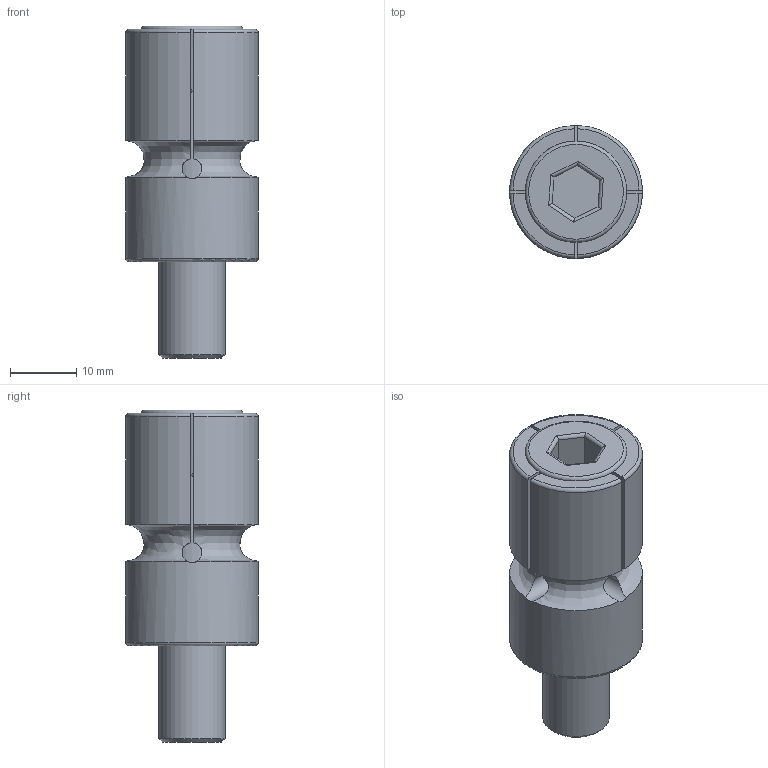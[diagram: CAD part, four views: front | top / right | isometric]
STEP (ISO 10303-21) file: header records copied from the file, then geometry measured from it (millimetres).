
FILE_DESCRIPTION(/* description */ (''),/* implementation_level */ '2;1');
FILE_NAME(/* name */ '20MM扩张销.stp',/* time_stamp */ '2023-11-24T14:29:43+08:00',/* author */ (''),/* organization */ (''),/* preprocessor_version */ 'ST-DEVELOPER v16',/* originating_system */ 'SIEMENS PLM Software NX 10.0',/* authorisation */ '');
FILE_SCHEMA (('CONFIG_CONTROL_DESIGN'));
Length unit declared in the file: millimetre
Products named in the file (1): 20MM扩张销_stp
Bounding box: 20 x 20 x 50 mm (x, y, z)
Volume: 10875.2 mm3; surface area: 6558.7 mm2
Topology: 2 solids, 2 shells, 57 faces, 148 edges, 96 vertices
Faces by surface type: plane 23, cylinder 17, torus 7, cone 6, bspline 4
Full cylindrical faces by diameter (mm): 10 x1, 10.1 x1, 20 x1
Entity records: 4104 total; most frequent: CARTESIAN_POINT 2738, ORIENTED_EDGE 272, DIRECTION 244, EDGE_CURVE 136, AXIS2_PLACEMENT_3D 94, VERTEX_POINT 92, EDGE_LOOP 68, ADVANCED_FACE 57
